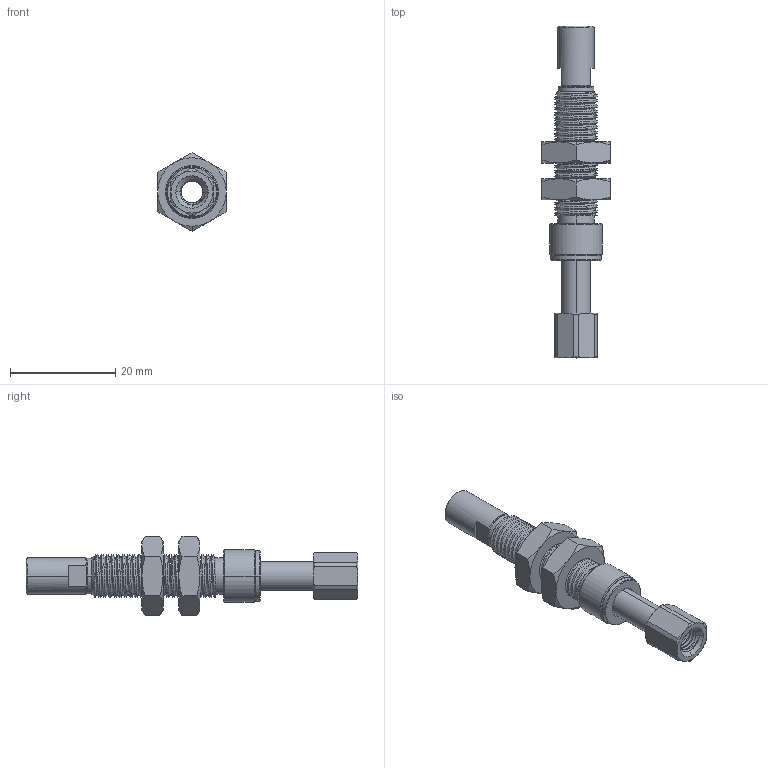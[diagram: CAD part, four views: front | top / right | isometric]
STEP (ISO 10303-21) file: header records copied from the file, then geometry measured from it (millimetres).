
FILE_DESCRIPTION (( 'STEP AP203' ), '1' );
FILE_NAME ('bln04-4bt10m8n63-m5b_asm〞〞TOC.STEP', '2024-10-17T03:10:02', ( '' ), ( '' ), 'SwSTEP 2.0', 'SolidWorks 2022', '' );
FILE_SCHEMA (( 'CONFIG_CONTROL_DESIGN' ));
Length unit declared in the file: millimetre
Products named in the file (1): bln04-4bt10m8n63-m5b_asm——TOC
Bounding box: 13 x 63 x 15.01 mm (x, y, z)
Surface area: 2859.5 mm2 (no closed solid volume)
Topology: 0 solids, 7 shells, 207 faces, 584 edges, 386 vertices
Faces by surface type: cone 89, cylinder 67, plane 35, bspline 16
Entity records: 13071 total; most frequent: CARTESIAN_POINT 8228, ORIENTED_EDGE 1030, DIRECTION 833, EDGE_CURVE 584, VERTEX_POINT 386, AXIS2_PLACEMENT_3D 346, B_SPLINE_CURVE_WITH_KNOTS 289, EDGE_LOOP 219
